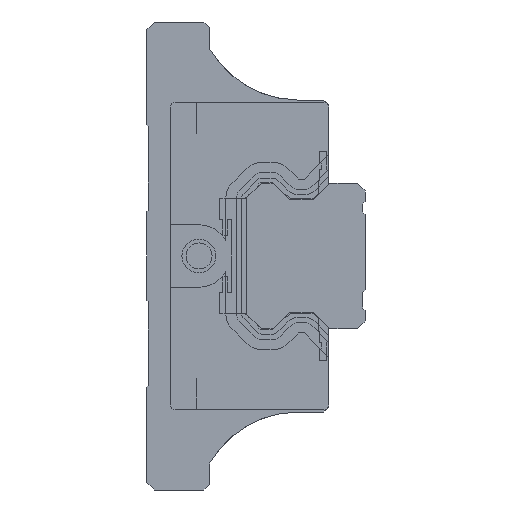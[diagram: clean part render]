
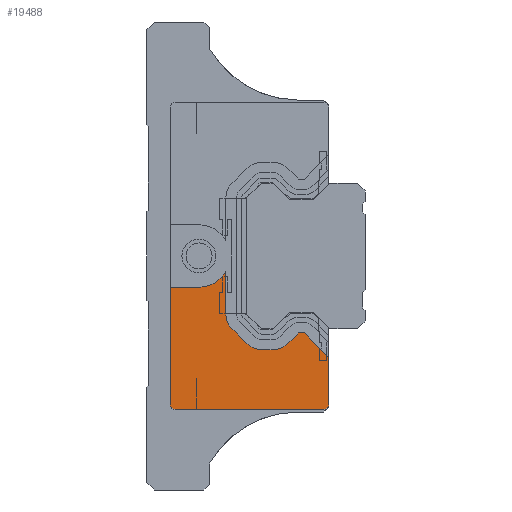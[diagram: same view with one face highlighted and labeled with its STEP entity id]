
A CAD part, left-side view. The second image highlights one B-rep face of the part: STEP entity #19488.
In plain terms, the highlighted planar face has unit normal (-1, 0, 0).
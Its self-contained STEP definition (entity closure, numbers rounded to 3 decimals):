
#87 = VECTOR ( 'NONE', #6159, 1000. ) ;
#963 = LINE ( 'NONE', #8487, #19209 ) ;
#979 = VECTOR ( 'NONE', #13927, 1000. ) ;
#2236 = CARTESIAN_POINT ( 'NONE',  ( -12.5, 32., -6. ) ) ;
#2503 = DIRECTION ( 'NONE',  ( 0., -1., 0. ) ) ;
#2712 = CARTESIAN_POINT ( 'NONE',  ( -12.5, 8., -29.5 ) ) ;
#2861 = EDGE_CURVE ( 'NONE', #3272, #10648, #963, .T. ) ;
#3111 = CARTESIAN_POINT ( 'NONE',  ( -12.5, 19.944, -14. ) ) ;
#3133 = EDGE_CURVE ( 'NONE', #25586, #9624, #4124, .T. ) ;
#3272 = VERTEX_POINT ( 'NONE', #20723 ) ;
#3296 = AXIS2_PLACEMENT_3D ( 'NONE', #15942, #17634, #11527 ) ;
#3441 = DIRECTION ( 'NONE',  ( 1., 0., 0. ) ) ;
#3771 = ORIENTED_EDGE ( 'NONE', *, *, #21869, .F. ) ;
#3892 = CARTESIAN_POINT ( 'NONE',  ( -12.5, 11.657, -14.8 ) ) ;
#3930 = ORIENTED_EDGE ( 'NONE', *, *, #17761, .T. ) ;
#4124 = LINE ( 'NONE', #7916, #979 ) ;
#4154 = CARTESIAN_POINT ( 'NONE',  ( -12.5, 12.843, -14.8 ) ) ;
#4294 = EDGE_CURVE ( 'NONE', #14703, #18874, #5845, .T. ) ;
#4529 = CIRCLE ( 'NONE', #4941, 6. ) ;
#4560 = DIRECTION ( 'NONE',  ( 0., -0.707, 0.707 ) ) ;
#4941 = AXIS2_PLACEMENT_3D ( 'NONE', #16880, #6998, #16998 ) ;
#4962 = ORIENTED_EDGE ( 'NONE', *, *, #16993, .F. ) ;
#4972 = DIRECTION ( 'NONE',  ( 0., -1., 0. ) ) ;
#5186 = VERTEX_POINT ( 'NONE', #21282 ) ;
#5331 = ORIENTED_EDGE ( 'NONE', *, *, #3133, .T. ) ;
#5845 = LINE ( 'NONE', #11870, #6460 ) ;
#6117 = VERTEX_POINT ( 'NONE', #19371 ) ;
#6128 = CARTESIAN_POINT ( 'NONE',  ( -12.5, 25.628, -13.973 ) ) ;
#6159 = DIRECTION ( 'NONE',  ( 0., 1., 0. ) ) ;
#6460 = VECTOR ( 'NONE', #12370, 1000. ) ;
#6648 = CARTESIAN_POINT ( 'NONE',  ( -12.5, 37.5, -28.5 ) ) ;
#6681 = LINE ( 'NONE', #23019, #11740 ) ;
#6998 = DIRECTION ( 'NONE',  ( 1., 0., 0. ) ) ;
#7402 = CARTESIAN_POINT ( 'NONE',  ( -12.5, 8., -29.5 ) ) ;
#7864 = DIRECTION ( 'NONE',  ( 0., 0., 1. ) ) ;
#7916 = CARTESIAN_POINT ( 'NONE',  ( -12.5, 8., -6. ) ) ;
#7994 = CARTESIAN_POINT ( 'NONE',  ( -12.5, 37.5, -28.5 ) ) ;
#8475 = ORIENTED_EDGE ( 'NONE', *, *, #4294, .F. ) ;
#8487 = CARTESIAN_POINT ( 'NONE',  ( -12.5, 19.944, -18. ) ) ;
#9046 = CIRCLE ( 'NONE', #24359, 4. ) ;
#9274 = DIRECTION ( 'NONE',  ( 0., -0.707, -0.707 ) ) ;
#9583 = CARTESIAN_POINT ( 'NONE',  ( -12.5, 8., -28.5 ) ) ;
#9624 = VERTEX_POINT ( 'NONE', #19562 ) ;
#9742 = EDGE_CURVE ( 'NONE', #20947, #18740, #10941, .T. ) ;
#10018 = EDGE_CURVE ( 'NONE', #18874, #20947, #16751, .T. ) ;
#10179 = VECTOR ( 'NONE', #4560, 1000. ) ;
#10291 = VERTEX_POINT ( 'NONE', #21652 ) ;
#10336 = EDGE_CURVE ( 'NONE', #14479, #13558, #10354, .T. ) ;
#10354 = LINE ( 'NONE', #12575, #12258 ) ;
#10564 = CARTESIAN_POINT ( 'NONE',  ( -12.5, 7., -28.5 ) ) ;
#10648 = VERTEX_POINT ( 'NONE', #19233 ) ;
#10941 = CIRCLE ( 'NONE', #14298, 1. ) ;
#11196 = DIRECTION ( 'NONE',  ( 0., 0., -1. ) ) ;
#11338 = PLANE ( 'NONE',  #19680 ) ;
#11395 = DIRECTION ( 'NONE',  ( 0., 0., -1. ) ) ;
#11527 = DIRECTION ( 'NONE',  ( 0., 0., -1. ) ) ;
#11740 = VECTOR ( 'NONE', #4972, 1000. ) ;
#11870 = CARTESIAN_POINT ( 'NONE',  ( -12.5, 11.657, -14.8 ) ) ;
#11910 = LINE ( 'NONE', #7994, #24302 ) ;
#12258 = VECTOR ( 'NONE', #9274, 1000. ) ;
#12370 = DIRECTION ( 'NONE',  ( 0., -0.707, -0.707 ) ) ;
#12438 = CARTESIAN_POINT ( 'NONE',  ( -12.5, 22.8, -11.144 ) ) ;
#12575 = CARTESIAN_POINT ( 'NONE',  ( -12.5, 25.628, -13.973 ) ) ;
#12867 = EDGE_CURVE ( 'NONE', #5186, #25586, #4529, .T. ) ;
#13270 = EDGE_CURVE ( 'NONE', #20382, #9624, #11910, .T. ) ;
#13558 = VERTEX_POINT ( 'NONE', #19775 ) ;
#13927 = DIRECTION ( 'NONE',  ( 0., 1., 0. ) ) ;
#13943 = ORIENTED_EDGE ( 'NONE', *, *, #18611, .T. ) ;
#14298 = AXIS2_PLACEMENT_3D ( 'NONE', #9583, #3441, #11395 ) ;
#14479 = VERTEX_POINT ( 'NONE', #6128 ) ;
#14631 = EDGE_CURVE ( 'NONE', #3272, #13558, #9046, .T. ) ;
#14703 = VERTEX_POINT ( 'NONE', #3892 ) ;
#14761 = DIRECTION ( 'NONE',  ( 1., 0., 0. ) ) ;
#14819 = CARTESIAN_POINT ( 'NONE',  ( -12.5, 7., -19.457 ) ) ;
#14895 = ORIENTED_EDGE ( 'NONE', *, *, #13270, .F. ) ;
#15202 = ORIENTED_EDGE ( 'NONE', *, *, #10018, .F. ) ;
#15664 = CIRCLE ( 'NONE', #19366, 4. ) ;
#15942 = CARTESIAN_POINT ( 'NONE',  ( -12.5, 36.5, -28.5 ) ) ;
#16274 = ORIENTED_EDGE ( 'NONE', *, *, #9742, .F. ) ;
#16356 = CARTESIAN_POINT ( 'NONE',  ( -12.5, 7., -19.457 ) ) ;
#16447 = DIRECTION ( 'NONE',  ( 0., 0., -1. ) ) ;
#16716 = CIRCLE ( 'NONE', #23314, 4. ) ;
#16751 = LINE ( 'NONE', #14819, #19678 ) ;
#16754 = LINE ( 'NONE', #7402, #87 ) ;
#16798 = ORIENTED_EDGE ( 'NONE', *, *, #17995, .F. ) ;
#16880 = CARTESIAN_POINT ( 'NONE',  ( -12.5, 32., 0. ) ) ;
#16993 = EDGE_CURVE ( 'NONE', #6117, #20382, #19908, .T. ) ;
#16998 = DIRECTION ( 'NONE',  ( 0., 0., -1. ) ) ;
#17351 = ORIENTED_EDGE ( 'NONE', *, *, #20217, .F. ) ;
#17634 = DIRECTION ( 'NONE',  ( 1., 0., 0. ) ) ;
#17761 = EDGE_CURVE ( 'NONE', #22738, #5186, #24771, .T. ) ;
#17916 = VECTOR ( 'NONE', #18575, 1000. ) ;
#17995 = EDGE_CURVE ( 'NONE', #18740, #6117, #16754, .T. ) ;
#18575 = DIRECTION ( 'NONE',  ( 0., 0., 1. ) ) ;
#18611 = EDGE_CURVE ( 'NONE', #10291, #10648, #16716, .T. ) ;
#18640 = DIRECTION ( 'NONE',  ( 1., 0., 0. ) ) ;
#18740 = VERTEX_POINT ( 'NONE', #2712 ) ;
#18868 = LINE ( 'NONE', #22753, #10179 ) ;
#18874 = VERTEX_POINT ( 'NONE', #16356 ) ;
#19209 = VECTOR ( 'NONE', #2503, 1000. ) ;
#19233 = CARTESIAN_POINT ( 'NONE',  ( -12.5, 17.701, -18. ) ) ;
#19366 = AXIS2_PLACEMENT_3D ( 'NONE', #12438, #18640, #16447 ) ;
#19370 = DIRECTION ( 'NONE',  ( 0., 0., -1. ) ) ;
#19371 = CARTESIAN_POINT ( 'NONE',  ( -12.5, 36.5, -29.5 ) ) ;
#19488 = ADVANCED_FACE ( 'NONE', ( #21173 ), #11338, .F. ) ;
#19562 = CARTESIAN_POINT ( 'NONE',  ( -12.5, 37.5, -6. ) ) ;
#19678 = VECTOR ( 'NONE', #22698, 1000. ) ;
#19680 = AXIS2_PLACEMENT_3D ( 'NONE', #25197, #14761, #19370 ) ;
#19749 = DIRECTION ( 'NONE',  ( 1., 0., 0. ) ) ;
#19775 = CARTESIAN_POINT ( 'NONE',  ( -12.5, 22.773, -16.828 ) ) ;
#19908 = CIRCLE ( 'NONE', #3296, 1. ) ;
#20217 = EDGE_CURVE ( 'NONE', #24024, #14703, #6681, .T. ) ;
#20382 = VERTEX_POINT ( 'NONE', #6648 ) ;
#20723 = CARTESIAN_POINT ( 'NONE',  ( -12.5, 19.944, -18. ) ) ;
#20947 = VERTEX_POINT ( 'NONE', #10564 ) ;
#21050 = EDGE_LOOP ( 'NONE', ( #3930, #22781, #5331, #14895, #4962, #16798, #16274, #15202, #8475, #17351, #3771, #13943, #24932, #21639, #25021, #23595 ) ) ;
#21173 = FACE_OUTER_BOUND ( 'NONE', #21050, .T. ) ;
#21282 = CARTESIAN_POINT ( 'NONE',  ( -12.5, 26.8, -2.993 ) ) ;
#21301 = DIRECTION ( 'NONE',  ( 1., 0., 0. ) ) ;
#21639 = ORIENTED_EDGE ( 'NONE', *, *, #14631, .T. ) ;
#21652 = CARTESIAN_POINT ( 'NONE',  ( -12.5, 14.872, -16.828 ) ) ;
#21869 = EDGE_CURVE ( 'NONE', #10291, #24024, #18868, .T. ) ;
#22698 = DIRECTION ( 'NONE',  ( 0., 0., -1. ) ) ;
#22738 = VERTEX_POINT ( 'NONE', #24726 ) ;
#22753 = CARTESIAN_POINT ( 'NONE',  ( -12.5, 14.872, -16.828 ) ) ;
#22781 = ORIENTED_EDGE ( 'NONE', *, *, #12867, .T. ) ;
#22831 = CARTESIAN_POINT ( 'NONE',  ( -12.5, 26.8, 28.5 ) ) ;
#23019 = CARTESIAN_POINT ( 'NONE',  ( -12.5, 12.843, -14.8 ) ) ;
#23314 = AXIS2_PLACEMENT_3D ( 'NONE', #25318, #19749, #23497 ) ;
#23497 = DIRECTION ( 'NONE',  ( 0., 0., -1. ) ) ;
#23595 = ORIENTED_EDGE ( 'NONE', *, *, #23643, .T. ) ;
#23643 = EDGE_CURVE ( 'NONE', #14479, #22738, #15664, .T. ) ;
#24024 = VERTEX_POINT ( 'NONE', #4154 ) ;
#24302 = VECTOR ( 'NONE', #7864, 1000. ) ;
#24359 = AXIS2_PLACEMENT_3D ( 'NONE', #3111, #21301, #11196 ) ;
#24726 = CARTESIAN_POINT ( 'NONE',  ( -12.5, 26.8, -11.144 ) ) ;
#24771 = LINE ( 'NONE', #22831, #17916 ) ;
#24932 = ORIENTED_EDGE ( 'NONE', *, *, #2861, .F. ) ;
#25021 = ORIENTED_EDGE ( 'NONE', *, *, #10336, .F. ) ;
#25197 = CARTESIAN_POINT ( 'NONE',  ( -12.5, 8., 28.5 ) ) ;
#25318 = CARTESIAN_POINT ( 'NONE',  ( -12.5, 17.701, -14. ) ) ;
#25586 = VERTEX_POINT ( 'NONE', #2236 ) ;
